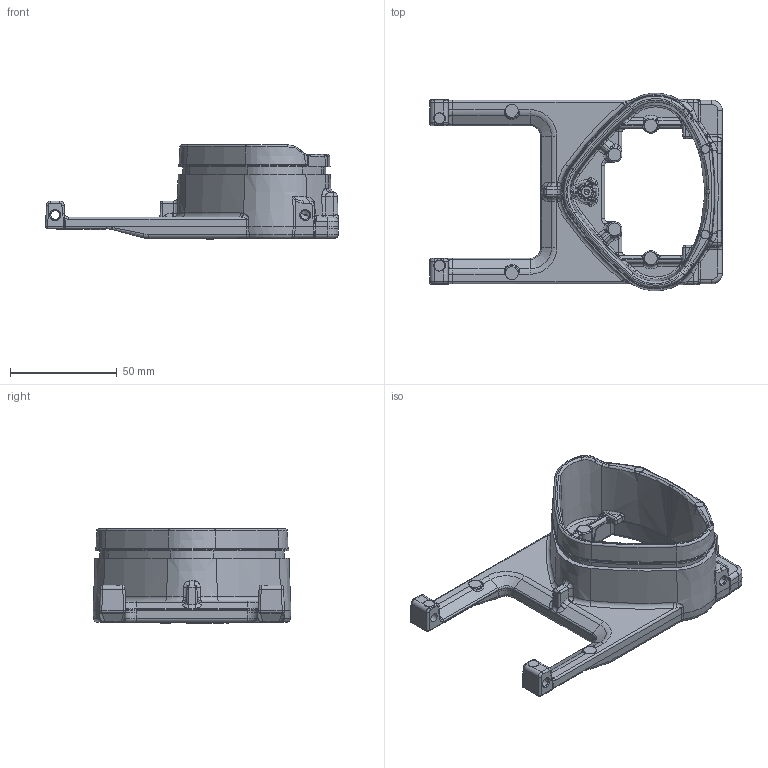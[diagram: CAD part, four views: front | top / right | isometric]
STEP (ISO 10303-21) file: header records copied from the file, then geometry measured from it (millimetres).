
FILE_DESCRIPTION(('CATIA V5 STEP 214'),'2;1');
FILE_NAME('C:\Temp\ddxv6\122143\ADAPTER_MA_MOTORMONTAGE.stp','2010-11-19T09:23:15+00:00',('Leopold Kostal'),('Kostal GmbH'),'CATIA Version 5 Release 19 SP 8 (IN-10)','CATIA V5 STEP AP214','none');
FILE_SCHEMA(('AUTOMOTIVE_DESIGN { 1 0 10303 214 1 1 1 1 }'));
Length unit declared in the file: millimetre
Products named in the file (1): 10009699-1-0008A_AllCATPart
Bounding box: 137 x 92.46 x 44.1 mm (x, y, z)
Volume: 92210.9 mm3; surface area: 35830.6 mm2
Topology: 1 solids, 1 shells, 1533 faces, 3836 edges, 2288 vertices
Faces by surface type: plane 370, bspline 360, extrusion 321, cylinder 256, torus 139, cone 63, sphere 24
Entity records: 65050 total; most frequent: CARTESIAN_POINT 35863, ORIENTED_EDGE 7532, EDGE_CURVE 3766, DIRECTION 3431, VERTEX_POINT 2288, EDGE_LOOP 1592, B_SPLINE_CURVE_WITH_KNOTS 1552, ADVANCED_FACE 1533
